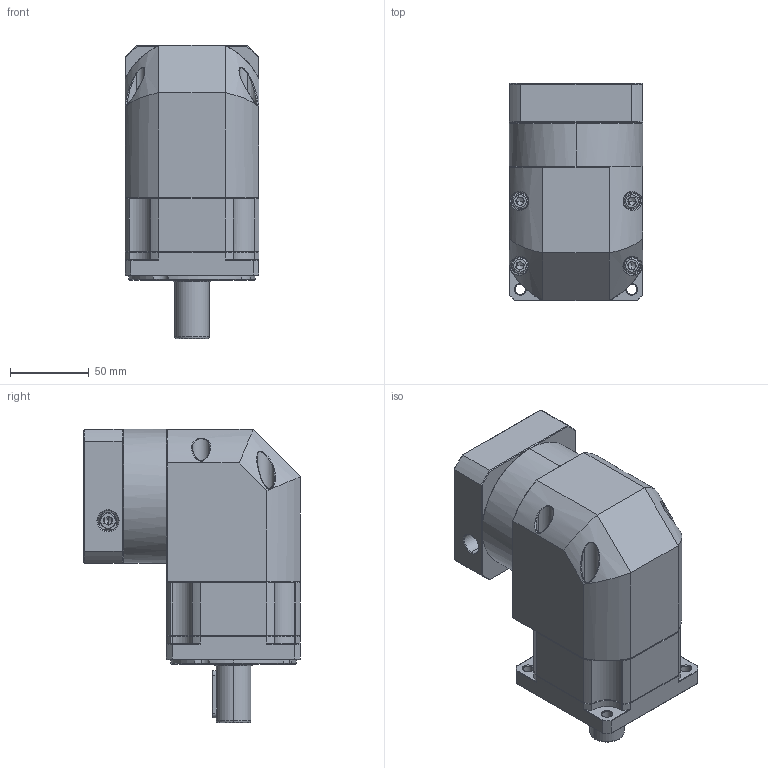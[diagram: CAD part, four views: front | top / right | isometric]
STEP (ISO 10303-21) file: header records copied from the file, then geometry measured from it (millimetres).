
FILE_DESCRIPTION (( 'STEP AP214' ), '1' );
FILE_NAME ('ZBR090-D22-L1-P2-14-60-75-M5.step', '2023-08-19T02:04:53', ( '' ), ( '' ), 'SwSTEP 2.0', 'SolidWorks 2016', '' );
FILE_SCHEMA (( 'AUTOMOTIVE_DESIGN' ));
Length unit declared in the file: millimetre
Products named in the file (1): ZBR090-D22-L1-P2-14-60-75-M5
Bounding box: 85 x 137.6 x 186 mm (x, y, z)
Volume: 1194357.6 mm3; surface area: 128977.5 mm2
Topology: 5 solids, 5 shells, 2413 faces, 6299 edges, 3977 vertices
Faces by surface type: plane 1176, cylinder 446, bspline 421, cone 344, torus 26
Entity records: 129745 total; most frequent: CARTESIAN_POINT 47630, ORIENTED_EDGE 12522, DIRECTION 9947, EDGE_CURVE 6261, VECTOR 4013, LINE 4013, VERTEX_POINT 3977, AXIS2_PLACEMENT_3D 2967
